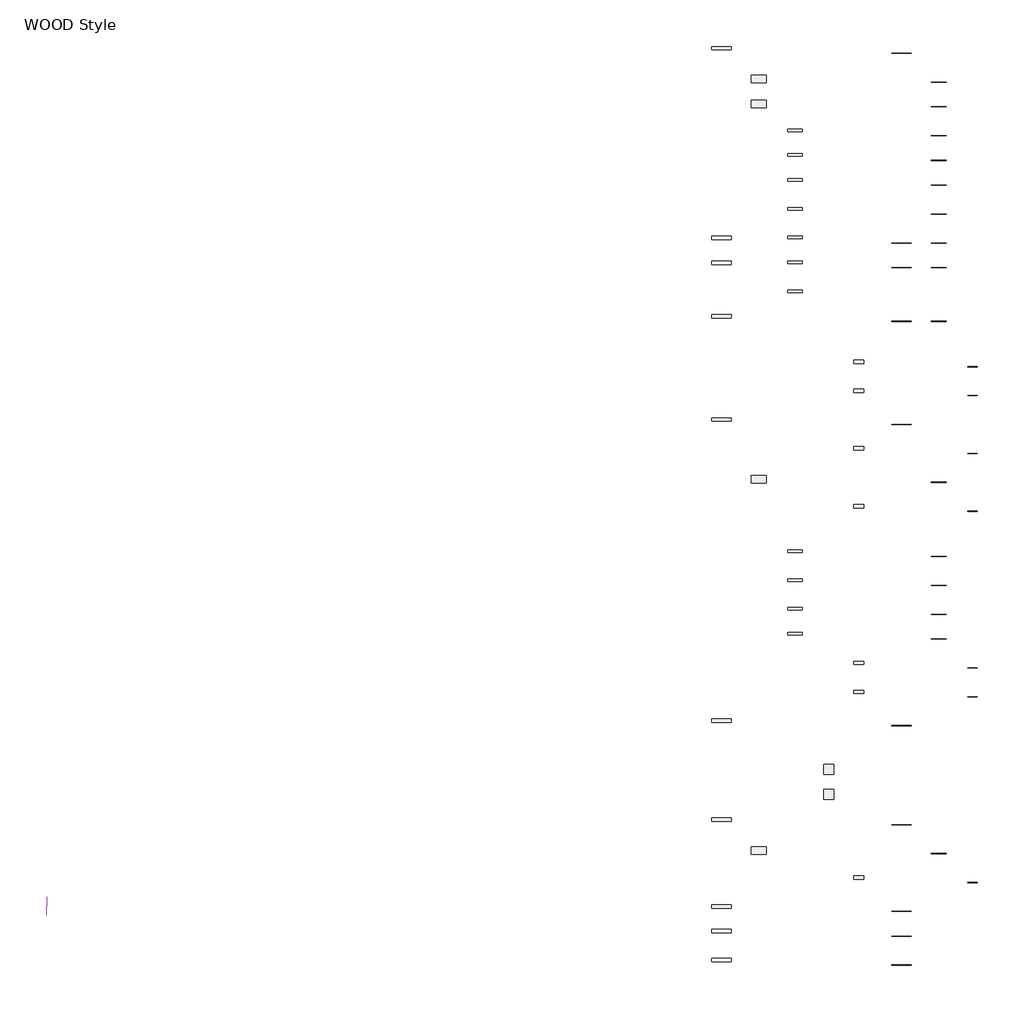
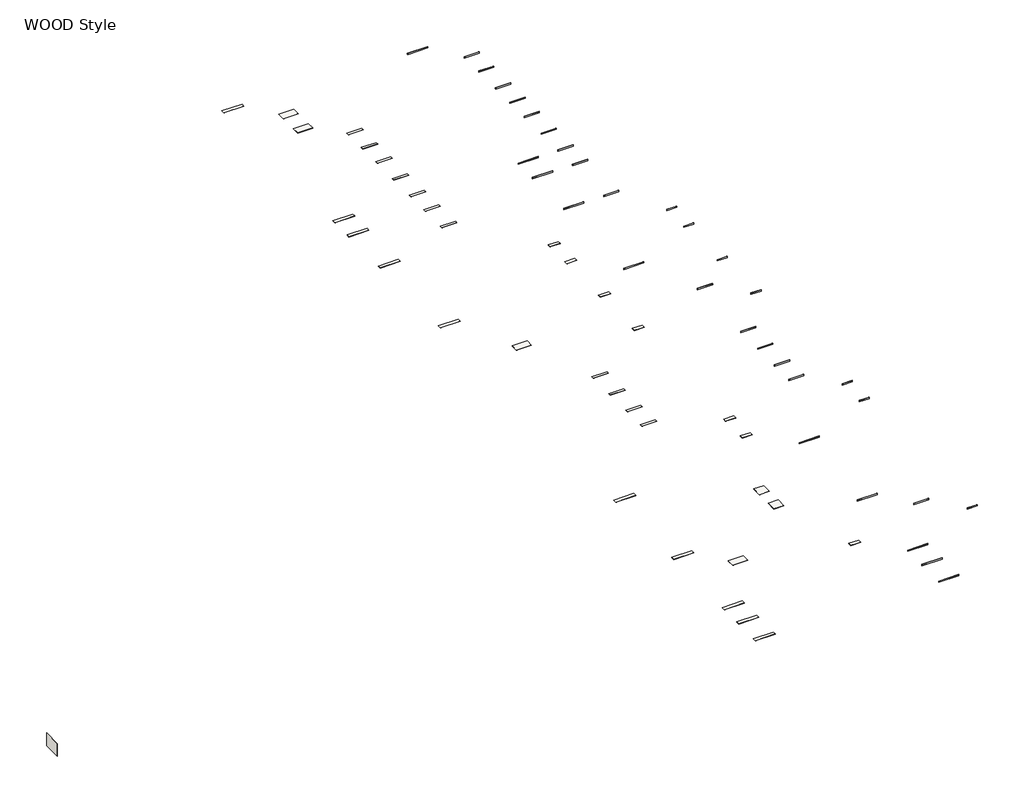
# One storey: 34 slabs, 33 walls, 32 proxies.
"""IFC4 building model written with IfcOpenShell, lengths in millimetres."""

from ifc_helpers import new_model, si_unit, frame, origin, place, context, project, spatial, polyline, outline, extrude, element, save

model = new_model("IFC4")

# Units and contexts
model_context = context("Model", 3, world=origin())
ifc_project = project(units=[si_unit("LENGTHUNIT", "METRE", prefix="MILLI")], contexts=[model_context])

# Site, building, storey
site = spatial("IfcSite", under=ifc_project)
building = spatial("IfcBuilding", under=site)
storey = spatial("IfcBuildingStorey", under=building, Name="WOOD Style", Elevation=3000.0)

# Proxies
placement = place(None, origin())
element("IfcBuildingElementProxy", 1, Name="Cesantoni_Alabama_8x120_RO_Alabama_Mate", ObjectType="Cesantoni_Alabama_8x120_RO_Alabama_Mate", at=placement, inside=storey, context=model_context, shape_type="SweptSolid", body=[
    extrude(outline(polyline([(9669.8218898, 374.781227), (9669.8218898, 385.781227), (10869.8218898, 385.781227), (10869.8218898, 374.781227), (9669.8218898, 374.781227)])), frame((0.0, 0.0, 3000.0), z_axis=(0.0, 0.0, 1.0), x_axis=(1.0, 0.0, 0.0)), (0.0, 0.0, 1.0), 80.0),
])
element("IfcBuildingElementProxy", 2, Name="Cesantoni_Astor_8x90_RO_Miel_Mate", ObjectType="Cesantoni_Astor_8x90_RO_Miel_Mate", at=placement, inside=storey, context=model_context, shape_type="SweptSolid", body=[
    extrude(outline(polyline([(12069.8218898, -1375.218773), (12069.8218898, -1364.218773), (12969.8218898, -1364.218773), (12969.8218898, -1375.218773), (12069.8218898, -1375.218773)])), frame((0.0, 0.0, 3000.0), z_axis=(0.0, 0.0, 1.0), x_axis=(1.0, 0.0, 0.0)), (0.0, 0.0, 1.0), 80.0),
])
element("IfcBuildingElementProxy", 3, Name="Cesantoni_Astor_8x90_RO_Arena_Mate", ObjectType="Cesantoni_Astor_8x90_RO_Arena_Mate", at=placement, inside=storey, context=model_context, shape_type="SweptSolid", body=[
    extrude(outline(polyline([(12069.8218898, -2875.218773), (12069.8218898, -2864.218773), (12969.8218898, -2864.218773), (12969.8218898, -2875.218773), (12069.8218898, -2875.218773)])), frame((0.0, 0.0, 3000.0), z_axis=(0.0, 0.0, 1.0), x_axis=(1.0, 0.0, 0.0)), (0.0, 0.0, 1.0), 80.0),
])
element("IfcBuildingElementProxy", 4, Name="Cesantoni_Balau_8x90_RO_Blanco_Mate", ObjectType="Cesantoni_Balau_8x90_RO_Blanco_Mate", at=placement, inside=storey, context=model_context, shape_type="SweptSolid", body=[
    extrude(outline(polyline([(12069.8218898, -4625.218773), (12069.8218898, -4614.218773), (12969.8218898, -4614.218773), (12969.8218898, -4625.218773), (12069.8218898, -4625.218773)])), frame((0.0, 0.0, 3000.0), z_axis=(0.0, 0.0, 1.0), x_axis=(1.0, 0.0, 0.0)), (0.0, 0.0, 1.0), 80.0),
])
element("IfcBuildingElementProxy", 5, Name="Cesantoni_Balau_8x90_RO_Café_Mate", ObjectType="Cesantoni_Balau_8x90_RO_Café_Mate", at=placement, inside=storey, context=model_context, shape_type="SweptSolid", body=[
    extrude(outline(polyline([(12069.8218898, -6125.218773), (12069.8218898, -6114.218773), (12969.8218898, -6114.218773), (12969.8218898, -6125.218773), (12069.8218898, -6125.218773)])), frame((0.0, 0.0, 3000.0), z_axis=(0.0, 0.0, 1.0), x_axis=(1.0, 0.0, 0.0)), (0.0, 0.0, 1.0), 80.0),
])
element("IfcBuildingElementProxy", 6, Name="Cesantoni_Balau_8x90_RO_Rojo_Mate", ObjectType="Cesantoni_Balau_8x90_RO_Rojo_Mate", at=placement, inside=storey, context=model_context, shape_type="SweptSolid", body=[
    extrude(outline(polyline([(12069.8218898, -7625.218773), (12069.8218898, -7614.218773), (12969.8218898, -7614.218773), (12969.8218898, -7625.218773), (12069.8218898, -7625.218773)])), frame((0.0, 0.0, 3000.0), z_axis=(0.0, 0.0, 1.0), x_axis=(1.0, 0.0, 0.0)), (0.0, 0.0, 1.0), 80.0),
])
element("IfcBuildingElementProxy", 7, Name="Cesantoni_Banff_8x90_RO_Caoba_Mate", ObjectType="Cesantoni_Banff_8x90_RO_Caoba_Mate", at=placement, inside=storey, context=model_context, shape_type="SweptSolid", body=[
    extrude(outline(polyline([(12069.8218898, -9375.218773), (12069.8218898, -9364.218773), (12969.8218898, -9364.218773), (12969.8218898, -9375.218773), (12069.8218898, -9375.218773)])), frame((0.0, 0.0, 3000.0), z_axis=(0.0, 0.0, 1.0), x_axis=(1.0, 0.0, 0.0)), (0.0, 0.0, 1.0), 80.0),
])
element("IfcBuildingElementProxy", 8, Name="Cesantoni_Blendwood_8x90_RO_Fummo_Mate", ObjectType="Cesantoni_Blendwood_8x90_RO_Fummo_Mate", at=placement, inside=storey, context=model_context, shape_type="SweptSolid", body=[
    extrude(outline(polyline([(12069.8218898, -11125.218773), (12069.8218898, -11114.218773), (12969.8218898, -11114.218773), (12969.8218898, -11125.218773), (12069.8218898, -11125.218773)])), frame((0.0, 0.0, 3000.0), z_axis=(0.0, 0.0, 1.0), x_axis=(1.0, 0.0, 0.0)), (0.0, 0.0, 1.0), 80.0),
])
element("IfcBuildingElementProxy", 9, Name="Cesantoni_Blendwood_8x90_RO_Canela_Mate", ObjectType="Cesantoni_Blendwood_8x90_RO_Canela_Mate", at=placement, inside=storey, context=model_context, shape_type="SweptSolid", body=[
    extrude(outline(polyline([(12069.8218898, -12625.218773), (12069.8218898, -12614.218773), (12969.8218898, -12614.218773), (12969.8218898, -12625.218773), (12069.8218898, -12625.218773)])), frame((0.0, 0.0, 3000.0), z_axis=(0.0, 0.0, 1.0), x_axis=(1.0, 0.0, 0.0)), (0.0, 0.0, 1.0), 80.0),
])
element("IfcBuildingElementProxy", 10, Name="Cesantoni_Blendwood_8x120_RO_Fummo_Mate", ObjectType="Cesantoni_Blendwood_8x120_RO_Fummo_Mate", at=placement, inside=storey, context=model_context, shape_type="SweptSolid", body=[
    extrude(outline(polyline([(9669.8218898, -11125.218773), (9669.8218898, -11114.218773), (10869.8218898, -11114.218773), (10869.8218898, -11125.218773), (9669.8218898, -11125.218773)])), frame((0.0, 0.0, 3000.0), z_axis=(0.0, 0.0, 1.0), x_axis=(1.0, 0.0, 0.0)), (0.0, 0.0, 1.0), 80.0),
])
element("IfcBuildingElementProxy", 11, Name="Cesantoni_Blendwood_8x120_RO_Canela_Mate", ObjectType="Cesantoni_Blendwood_8x120_RO_Canela_Mate", at=placement, inside=storey, context=model_context, shape_type="SweptSolid", body=[
    extrude(outline(polyline([(9669.8218898, -12625.218773), (9669.8218898, -12614.218773), (10869.8218898, -12614.218773), (10869.8218898, -12625.218773), (9669.8218898, -12625.218773)])), frame((0.0, 0.0, 3000.0), z_axis=(0.0, 0.0, 1.0), x_axis=(1.0, 0.0, 0.0)), (0.0, 0.0, 1.0), 80.0),
])
element("IfcBuildingElementProxy", 12, Name="Cesantoni_Calajan_8x90_RO_Fummo_Mate", ObjectType="Cesantoni_Calajan_8x90_RO_Fummo_Mate", at=placement, inside=storey, context=model_context, shape_type="SweptSolid", body=[
    extrude(outline(polyline([(12069.8218898, -15875.218773), (12069.8218898, -15864.218773), (12969.8218898, -15864.218773), (12969.8218898, -15875.218773), (12069.8218898, -15875.218773)])), frame((0.0, 0.0, 3000.0), z_axis=(0.0, 0.0, 1.0), x_axis=(1.0, 0.0, 0.0)), (0.0, 0.0, 1.0), 80.0),
])
element("IfcBuildingElementProxy", 13, Name="Cesantoni_Calajan_8x120_RO_Fummo_Mate", ObjectType="Cesantoni_Calajan_8x120_RO_Fummo_Mate", at=placement, inside=storey, context=model_context, shape_type="SweptSolid", body=[
    extrude(outline(polyline([(9669.8218898, -15875.218773), (9669.8218898, -15864.218773), (10869.8218898, -15864.218773), (10869.8218898, -15875.218773), (9669.8218898, -15875.218773)])), frame((0.0, 0.0, 3000.0), z_axis=(0.0, 0.0, 1.0), x_axis=(1.0, 0.0, 0.0)), (0.0, 0.0, 1.0), 80.0),
])
element("IfcBuildingElementProxy", 14, Name="Cesantoni_Cannon_Wood_8x60_RO_Cannon_Wood_Mate", ObjectType="Cesantoni_Cannon_Wood_8x60_RO_Cannon_Wood_Mate", at=placement, inside=storey, context=model_context, shape_type="SweptSolid", body=[
    extrude(outline(polyline([(14269.8218898, -18625.218773), (14269.8218898, -18614.218773), (14869.8218898, -18614.218773), (14869.8218898, -18625.218773), (14269.8218898, -18625.218773)])), frame((0.0, 0.0, 3000.0), z_axis=(0.0, 0.0, 1.0), x_axis=(1.0, 0.0, 0.0)), (0.0, 0.0, 1.0), 80.0),
])
element("IfcBuildingElementProxy", 15, Name="Cesantoni_Decker_8x60_RO_Decker_Mate", ObjectType="Cesantoni_Decker_8x60_RO_Decker_Mate", at=placement, inside=storey, context=model_context, shape_type="SweptSolid", body=[
    extrude(outline(polyline([(14269.8218898, -20375.218773), (14269.8218898, -20364.218773), (14869.8218898, -20364.218773), (14869.8218898, -20375.218773), (14269.8218898, -20375.218773)])), frame((0.0, 0.0, 3000.0), z_axis=(0.0, 0.0, 1.0), x_axis=(1.0, 0.0, 0.0)), (0.0, 0.0, 1.0), 80.0),
])
element("IfcBuildingElementProxy", 16, Name="Cesantoni_Denver_8x120_RO_Denver_Mate", ObjectType="Cesantoni_Denver_8x120_RO_Denver_Mate", at=placement, inside=storey, context=model_context, shape_type="SweptSolid", body=[
    extrude(outline(polyline([(9669.8218898, -22125.218773), (9669.8218898, -22114.218773), (10869.8218898, -22114.218773), (10869.8218898, -22125.218773), (9669.8218898, -22125.218773)])), frame((0.0, 0.0, 3000.0), z_axis=(0.0, 0.0, 1.0), x_axis=(1.0, 0.0, 0.0)), (0.0, 0.0, 1.0), 80.0),
])
element("IfcBuildingElementProxy", 17, Name="Cesantoni_Elkwood_8x60_RO_Elkwood_Mate", ObjectType="Cesantoni_Elkwood_8x60_RO_Elkwood_Mate", at=placement, inside=storey, context=model_context, shape_type="SweptSolid", body=[
    extrude(outline(polyline([(14269.8218898, -23875.218773), (14269.8218898, -23864.218773), (14869.8218898, -23864.218773), (14869.8218898, -23875.218773), (14269.8218898, -23875.218773)])), frame((0.0, 0.0, 3000.0), z_axis=(0.0, 0.0, 1.0), x_axis=(1.0, 0.0, 0.0)), (0.0, 0.0, 1.0), 80.0),
])
element("IfcBuildingElementProxy", 18, Name="Cesantoni_Greensboro_8x90_RO_Greensboro_Mate", ObjectType="Cesantoni_Greensboro_8x90_RO_Greensboro_Mate", at=placement, inside=storey, context=model_context, shape_type="SweptSolid", body=[
    extrude(outline(polyline([(12069.8218898, -25625.218773), (12069.8218898, -25614.218773), (12969.8218898, -25614.218773), (12969.8218898, -25625.218773), (12069.8218898, -25625.218773)])), frame((0.0, 0.0, 3000.0), z_axis=(0.0, 0.0, 1.0), x_axis=(1.0, 0.0, 0.0)), (0.0, 0.0, 1.0), 80.0),
])
element("IfcBuildingElementProxy", 19, Name="Cesantoni_Hanover_8x60_RO_Hanover_Mate", ObjectType="Cesantoni_Hanover_8x60_RO_Hanover_Mate", at=placement, inside=storey, context=model_context, shape_type="SweptSolid", body=[
    extrude(outline(polyline([(14269.8218898, -27375.218773), (14269.8218898, -27364.218773), (14869.8218898, -27364.218773), (14869.8218898, -27375.218773), (14269.8218898, -27375.218773)])), frame((0.0, 0.0, 3000.0), z_axis=(0.0, 0.0, 1.0), x_axis=(1.0, 0.0, 0.0)), (0.0, 0.0, 1.0), 80.0),
])
element("IfcBuildingElementProxy", 20, Name="Cesantoni_Hubbert_8x90_RO_Hubbert_Mate", ObjectType="Cesantoni_Hubbert_8x90_RO_Hubbert_Mate", at=placement, inside=storey, context=model_context, shape_type="SweptSolid", body=[
    extrude(outline(polyline([(12069.8218898, -30125.218773), (12069.8218898, -30114.218773), (12969.8218898, -30114.218773), (12969.8218898, -30125.218773), (12069.8218898, -30125.218773)])), frame((0.0, 0.0, 3000.0), z_axis=(0.0, 0.0, 1.0), x_axis=(1.0, 0.0, 0.0)), (0.0, 0.0, 1.0), 80.0),
])
element("IfcBuildingElementProxy", 21, Name="Cesantoni_Kant_8x90_RO_Moka_Mate", ObjectType="Cesantoni_Kant_8x90_RO_Moka_Mate", at=placement, inside=storey, context=model_context, shape_type="SweptSolid", body=[
    extrude(outline(polyline([(12069.8218898, -31875.218773), (12069.8218898, -31864.218773), (12969.8218898, -31864.218773), (12969.8218898, -31875.218773), (12069.8218898, -31875.218773)])), frame((0.0, 0.0, 3000.0), z_axis=(0.0, 0.0, 1.0), x_axis=(1.0, 0.0, 0.0)), (0.0, 0.0, 1.0), 80.0),
])
element("IfcBuildingElementProxy", 22, Name="Cesantoni_Lubeck_8x90_RO_Castaña_Mate", ObjectType="Cesantoni_Lubeck_8x90_RO_Castaña_Mate", at=placement, inside=storey, context=model_context, shape_type="SweptSolid", body=[
    extrude(outline(polyline([(12069.8218898, -33625.218773), (12069.8218898, -33614.218773), (12969.8218898, -33614.218773), (12969.8218898, -33625.218773), (12069.8218898, -33625.218773)])), frame((0.0, 0.0, 3000.0), z_axis=(0.0, 0.0, 1.0), x_axis=(1.0, 0.0, 0.0)), (0.0, 0.0, 1.0), 80.0),
])
element("IfcBuildingElementProxy", 23, Name="Cesantoni_Memphis_8x60_RO_Memphis_Mate", ObjectType="Cesantoni_Memphis_8x60_RO_Memphis_Mate", at=placement, inside=storey, context=model_context, shape_type="SweptSolid", body=[
    extrude(outline(polyline([(14269.8218898, -36875.218773), (14269.8218898, -36864.218773), (14869.8218898, -36864.218773), (14869.8218898, -36875.218773), (14269.8218898, -36875.218773)])), frame((0.0, 0.0, 3000.0), z_axis=(0.0, 0.0, 1.0), x_axis=(1.0, 0.0, 0.0)), (0.0, 0.0, 1.0), 80.0),
])
element("IfcBuildingElementProxy", 24, Name="Cesantoni_Nebraska_8x60_RO_Nebraska_Mate", ObjectType="Cesantoni_Nebraska_8x60_RO_Nebraska_Mate", at=placement, inside=storey, context=model_context, shape_type="SweptSolid", body=[
    extrude(outline(polyline([(14269.8218898, -38625.218773), (14269.8218898, -38614.218773), (14869.8218898, -38614.218773), (14869.8218898, -38625.218773), (14269.8218898, -38625.218773)])), frame((0.0, 0.0, 3000.0), z_axis=(0.0, 0.0, 1.0), x_axis=(1.0, 0.0, 0.0)), (0.0, 0.0, 1.0), 80.0),
])
element("IfcBuildingElementProxy", 25, Name="Cesantoni_Nekk_8x120_RO_Nekk_Mate", ObjectType="Cesantoni_Nekk_8x120_RO_Nekk_Mate", at=placement, inside=storey, context=model_context, shape_type="SweptSolid", body=[
    extrude(outline(polyline([(9669.8218898, -40375.218773), (9669.8218898, -40364.218773), (10869.8218898, -40364.218773), (10869.8218898, -40375.218773), (9669.8218898, -40375.218773)])), frame((0.0, 0.0, 3000.0), z_axis=(0.0, 0.0, 1.0), x_axis=(1.0, 0.0, 0.0)), (0.0, 0.0, 1.0), 80.0),
])
element("IfcBuildingElementProxy", 26, Name="Cesantoni_Riverwood_8x120_RO_Riverwood_Mate", ObjectType="Cesantoni_Riverwood_8x120_RO_Riverwood_Mate", at=placement, inside=storey, context=model_context, shape_type="SweptSolid", body=[
    extrude(outline(polyline([(9669.8218898, -46375.218773), (9669.8218898, -46364.218773), (10869.8218898, -46364.218773), (10869.8218898, -46375.218773), (9669.8218898, -46375.218773)])), frame((0.0, 0.0, 3000.0), z_axis=(0.0, 0.0, 1.0), x_axis=(1.0, 0.0, 0.0)), (0.0, 0.0, 1.0), 80.0),
])
element("IfcBuildingElementProxy", 27, Name="Cesantoni_Roble_8x90_RO_Roble_Mate", ObjectType="Cesantoni_Roble_8x90_RO_Roble_Mate", at=placement, inside=storey, context=model_context, shape_type="SweptSolid", body=[
    extrude(outline(polyline([(12069.8218898, -48125.218773), (12069.8218898, -48114.218773), (12969.8218898, -48114.218773), (12969.8218898, -48125.218773), (12069.8218898, -48125.218773)])), frame((0.0, 0.0, 3000.0), z_axis=(0.0, 0.0, 1.0), x_axis=(1.0, 0.0, 0.0)), (0.0, 0.0, 1.0), 80.0),
])
element("IfcBuildingElementProxy", 28, Name="Cesantoni_Stockton_8x60_RO_Stockton_Mate", ObjectType="Cesantoni_Stockton_8x60_RO_Stockton_Mate", at=placement, inside=storey, context=model_context, shape_type="SweptSolid", body=[
    extrude(outline(polyline([(14269.8218898, -49875.218773), (14269.8218898, -49864.218773), (14869.8218898, -49864.218773), (14869.8218898, -49875.218773), (14269.8218898, -49875.218773)])), frame((0.0, 0.0, 3000.0), z_axis=(0.0, 0.0, 1.0), x_axis=(1.0, 0.0, 0.0)), (0.0, 0.0, 1.0), 80.0),
])
element("IfcBuildingElementProxy", 29, Name="Cesantoni_Vali_8x120_RO_Fummo_Mate", ObjectType="Cesantoni_Vali_8x120_RO_Fummo_Mate", at=placement, inside=storey, context=model_context, shape_type="SweptSolid", body=[
    extrude(outline(polyline([(9669.8218898, -51625.218773), (9669.8218898, -51614.218773), (10869.8218898, -51614.218773), (10869.8218898, -51625.218773), (9669.8218898, -51625.218773)])), frame((0.0, 0.0, 3000.0), z_axis=(0.0, 0.0, 1.0), x_axis=(1.0, 0.0, 0.0)), (0.0, 0.0, 1.0), 80.0),
])
element("IfcBuildingElementProxy", 30, Name="Cesantoni_Vali_8x120_RO_Moka_Mate", ObjectType="Cesantoni_Vali_8x120_RO_Moka_Mate", at=placement, inside=storey, context=model_context, shape_type="SweptSolid", body=[
    extrude(outline(polyline([(9669.8218898, -53125.218773), (9669.8218898, -53114.218773), (10869.8218898, -53114.218773), (10869.8218898, -53125.218773), (9669.8218898, -53125.218773)])), frame((0.0, 0.0, 3000.0), z_axis=(0.0, 0.0, 1.0), x_axis=(1.0, 0.0, 0.0)), (0.0, 0.0, 1.0), 80.0),
])
element("IfcBuildingElementProxy", 31, Name="Cesantoni_Vermont_8x120_RO_Vermont_Mate", ObjectType="Cesantoni_Vermont_8x120_RO_Vermont_Mate", at=placement, inside=storey, context=model_context, shape_type="SweptSolid", body=[
    extrude(outline(polyline([(9669.8218898, -54875.218773), (9669.8218898, -54864.218773), (10869.8218898, -54864.218773), (10869.8218898, -54875.218773), (9669.8218898, -54875.218773)])), frame((0.0, 0.0, 3000.0), z_axis=(0.0, 0.0, 1.0), x_axis=(1.0, 0.0, 0.0)), (0.0, 0.0, 1.0), 80.0),
])
element("IfcBuildingElementProxy", 32, Name="Cesantoni_Lubeck_8x90_RO_Tabaco_Mate", ObjectType="Cesantoni_Lubeck_8x90_RO_Tabaco_Mate", at=placement, inside=storey, context=model_context, shape_type="SweptSolid", body=[
    extrude(outline(polyline([(12069.8218898, -35125.218773), (12069.8218898, -35114.218773), (12969.8218898, -35114.218773), (12969.8218898, -35125.218773), (12069.8218898, -35125.218773)])), frame((0.0, 0.0, 3000.0), z_axis=(0.0, 0.0, 1.0), x_axis=(1.0, 0.0, 0.0)), (0.0, 0.0, 1.0), 80.0),
])

# Slabs
element("IfcSlab", 33, ObjectType="Cesantoni_Alabama_20x120_RECT_Alabama_Mate", at=placement, inside=storey, context=model_context, shape_type="SweptSolid", body=[
    extrude(outline(polyline([(-28.1781102, 784.4826442), (-28.1781102, 582.4826442), (-1230.1781102, 582.4826442), (-1230.1781102, 784.4826442), (-28.1781102, 784.4826442)])), frame((0.0, 0.0, 2989.0), z_axis=(0.0, 0.0, 1.0), x_axis=(1.0, 0.0, 0.0)), (0.0, 0.0, 1.0), 11.0),
])
element("IfcSlab", 34, ObjectType="Cesantoni_Astor_45x90_RECT_Miel_Mate", at=placement, inside=storey, context=model_context, shape_type="SweptSolid", body=[
    extrude(outline(polyline([(2071.8218898, -965.5173558), (2071.8218898, -1417.5173558), (1169.8218898, -1417.5173558), (1169.8218898, -965.5173558), (2071.8218898, -965.5173558)])), frame((0.0, 0.0, 2989.0), z_axis=(0.0, 0.0, 1.0), x_axis=(1.0, 0.0, 0.0)), (0.0, 0.0, 1.0), 11.0),
])
element("IfcSlab", 35, ObjectType="Cesantoni_Astor_45x90_RECT_Arena_Mate", at=placement, inside=storey, context=model_context, shape_type="SweptSolid", body=[
    extrude(outline(polyline([(2071.8218898, -2465.5173558), (2071.8218898, -2917.5173558), (1169.8218898, -2917.5173558), (1169.8218898, -2465.5173558), (2071.8218898, -2465.5173558)])), frame((0.0, 0.0, 2989.0), z_axis=(0.0, 0.0, 1.0), x_axis=(1.0, 0.0, 0.0)), (0.0, 0.0, 1.0), 11.0),
])
element("IfcSlab", 36, ObjectType="Cesantoni_Balau_15x90_Blanco_Mate", at=placement, inside=storey, context=model_context, shape_type="SweptSolid", body=[
    extrude(outline(polyline([(4271.8218898, -4215.5173558), (4271.8218898, -4367.5173558), (3369.8218898, -4367.5173558), (3369.8218898, -4215.5173558), (4271.8218898, -4215.5173558)])), frame((0.0, 0.0, 2989.0), z_axis=(0.0, 0.0, 1.0), x_axis=(1.0, 0.0, 0.0)), (0.0, 0.0, 1.0), 11.0),
])
element("IfcSlab", 37, ObjectType="Cesantoni_Balau_15x90_Café_Mate", at=placement, inside=storey, context=model_context, shape_type="SweptSolid", body=[
    extrude(outline(polyline([(4271.8218898, -5715.5173558), (4271.8218898, -5867.5173558), (3369.8218898, -5867.5173558), (3369.8218898, -5715.5173558), (4271.8218898, -5715.5173558)])), frame((0.0, 0.0, 2989.0), z_axis=(0.0, 0.0, 1.0), x_axis=(1.0, 0.0, 0.0)), (0.0, 0.0, 1.0), 11.0),
])
element("IfcSlab", 38, ObjectType="Cesantoni_Balau_15x90_Rojo_Mate", at=placement, inside=storey, context=model_context, shape_type="SweptSolid", body=[
    extrude(outline(polyline([(4271.8218898, -7215.5173558), (4271.8218898, -7367.5173558), (3369.8218898, -7367.5173558), (3369.8218898, -7215.5173558), (4271.8218898, -7215.5173558)])), frame((0.0, 0.0, 2989.0), z_axis=(0.0, 0.0, 1.0), x_axis=(1.0, 0.0, 0.0)), (0.0, 0.0, 1.0), 11.0),
])
element("IfcSlab", 39, ObjectType="Cesantoni_Banff_15x90_Caoba_Mate", at=placement, inside=storey, context=model_context, shape_type="SweptSolid", body=[
    extrude(outline(polyline([(4271.8218898, -8965.5173558), (4271.8218898, -9117.5173558), (3369.8218898, -9117.5173558), (3369.8218898, -8965.5173558), (4271.8218898, -8965.5173558)])), frame((0.0, 0.0, 2989.0), z_axis=(0.0, 0.0, 1.0), x_axis=(1.0, 0.0, 0.0)), (0.0, 0.0, 1.0), 11.0),
])
element("IfcSlab", 40, ObjectType="Cesantoni_Blendwood_15x90_Fummo_Mate", at=placement, inside=storey, context=model_context, shape_type="SweptSolid", body=[
    extrude(outline(polyline([(4271.8218898, -10715.5173558), (4271.8218898, -10867.5173558), (3369.8218898, -10867.5173558), (3369.8218898, -10715.5173558), (4271.8218898, -10715.5173558)])), frame((0.0, 0.0, 2989.0), z_axis=(0.0, 0.0, 1.0), x_axis=(1.0, 0.0, 0.0)), (0.0, 0.0, 1.0), 11.0),
])
element("IfcSlab", 41, ObjectType="Cesantoni_Blendwood_15x90_Canela_Mate", at=placement, inside=storey, context=model_context, shape_type="SweptSolid", body=[
    extrude(outline(polyline([(4271.8218898, -12215.5173558), (4271.8218898, -12367.5173558), (3369.8218898, -12367.5173558), (3369.8218898, -12215.5173558), (4271.8218898, -12215.5173558)])), frame((0.0, 0.0, 2989.0), z_axis=(0.0, 0.0, 1.0), x_axis=(1.0, 0.0, 0.0)), (0.0, 0.0, 1.0), 11.0),
])
element("IfcSlab", 42, ObjectType="Cesantoni_Blendwood_20x120_RECT_Fummo_Mate", at=placement, inside=storey, context=model_context, shape_type="SweptSolid", body=[
    extrude(outline(polyline([(-28.1781102, -10715.5173558), (-28.1781102, -10917.5173558), (-1230.1781102, -10917.5173558), (-1230.1781102, -10715.5173558), (-28.1781102, -10715.5173558)])), frame((0.0, 0.0, 2989.0), z_axis=(0.0, 0.0, 1.0), x_axis=(1.0, 0.0, 0.0)), (0.0, 0.0, 1.0), 11.0),
])
element("IfcSlab", 43, ObjectType="Cesantoni_Blendwood_20x120_RECT_Canela_Mate", at=placement, inside=storey, context=model_context, shape_type="SweptSolid", body=[
    extrude(outline(polyline([(-28.1781102, -12215.5173558), (-28.1781102, -12417.5173558), (-1230.1781102, -12417.5173558), (-1230.1781102, -12215.5173558), (-28.1781102, -12215.5173558)])), frame((0.0, 0.0, 2989.0), z_axis=(0.0, 0.0, 1.0), x_axis=(1.0, 0.0, 0.0)), (0.0, 0.0, 1.0), 11.0),
])
element("IfcSlab", 44, ObjectType="Cesantoni_Calajan_15x90_Fummo_Mate", at=placement, inside=storey, context=model_context, shape_type="SweptSolid", body=[
    extrude(outline(polyline([(4271.8218898, -13965.5173558), (4271.8218898, -14117.5173558), (3369.8218898, -14117.5173558), (3369.8218898, -13965.5173558), (4271.8218898, -13965.5173558)])), frame((0.0, 0.0, 2989.0), z_axis=(0.0, 0.0, 1.0), x_axis=(1.0, 0.0, 0.0)), (0.0, 0.0, 1.0), 11.0),
])
element("IfcSlab", 45, ObjectType="Cesantoni_Calajan_20x120_RECT_Fummo_Mate", at=placement, inside=storey, context=model_context, shape_type="SweptSolid", body=[
    extrude(outline(polyline([(-28.1781102, -15465.5173558), (-28.1781102, -15667.5173558), (-1230.1781102, -15667.5173558), (-1230.1781102, -15465.5173558), (-28.1781102, -15465.5173558)])), frame((0.0, 0.0, 2989.0), z_axis=(0.0, 0.0, 1.0), x_axis=(1.0, 0.0, 0.0)), (0.0, 0.0, 1.0), 11.0),
])
element("IfcSlab", 46, ObjectType="Cesantoni_Cannon_Wood_20x60_Cannon_Wood_Mate", at=placement, inside=storey, context=model_context, shape_type="SweptSolid", body=[
    extrude(outline(polyline([(7973.8218898, -18215.5173558), (7973.8218898, -18419.5173558), (7369.8218898, -18419.5173558), (7369.8218898, -18215.5173558), (7973.8218898, -18215.5173558)])), frame((0.0, 0.0, 2990.5), z_axis=(0.0, 0.0, 1.0), x_axis=(1.0, 0.0, 0.0)), (0.0, 0.0, 1.0), 9.5),
])
element("IfcSlab", 47, ObjectType="Cesantoni_Decker_20x60_Decker_Mate", at=placement, inside=storey, context=model_context, shape_type="SweptSolid", body=[
    extrude(outline(polyline([(7973.8218898, -19965.5173558), (7973.8218898, -20169.5173558), (7369.8218898, -20169.5173558), (7369.8218898, -19965.5173558), (7973.8218898, -19965.5173558)])), frame((0.0, 0.0, 2990.5), z_axis=(0.0, 0.0, 1.0), x_axis=(1.0, 0.0, 0.0)), (0.0, 0.0, 1.0), 9.5),
])
element("IfcSlab", 48, ObjectType="Cesantoni_Denver_20x120_RECT_Denver_Mate", at=placement, inside=storey, context=model_context, shape_type="SweptSolid", body=[
    extrude(outline(polyline([(-28.1781102, -21715.5173558), (-28.1781102, -21917.5173558), (-1230.1781102, -21917.5173558), (-1230.1781102, -21715.5173558), (-28.1781102, -21715.5173558)])), frame((0.0, 0.0, 2989.0), z_axis=(0.0, 0.0, 1.0), x_axis=(1.0, 0.0, 0.0)), (0.0, 0.0, 1.0), 11.0),
])
element("IfcSlab", 49, ObjectType="Cesantoni_Elkwood_20x60_Elkwood_Mate", at=placement, inside=storey, context=model_context, shape_type="SweptSolid", body=[
    extrude(outline(polyline([(7973.8218898, -23465.5173558), (7973.8218898, -23669.5173558), (7369.8218898, -23669.5173558), (7369.8218898, -23465.5173558), (7973.8218898, -23465.5173558)])), frame((0.0, 0.0, 2990.5), z_axis=(0.0, 0.0, 1.0), x_axis=(1.0, 0.0, 0.0)), (0.0, 0.0, 1.0), 9.5),
])
element("IfcSlab", 50, ObjectType="Cesantoni_Greensboro_45x90_RECT_Greensboro_Mate", at=placement, inside=storey, context=model_context, shape_type="SweptSolid", body=[
    extrude(outline(polyline([(2071.8218898, -25215.5173558), (2071.8218898, -25667.5173558), (1169.8218898, -25667.5173558), (1169.8218898, -25215.5173558), (2071.8218898, -25215.5173558)])), frame((0.0, 0.0, 2989.0), z_axis=(0.0, 0.0, 1.0), x_axis=(1.0, 0.0, 0.0)), (0.0, 0.0, 1.0), 11.0),
])
element("IfcSlab", 51, ObjectType="Cesantoni_Hanover_20x60_Hanover_Mate", at=placement, inside=storey, context=model_context, shape_type="SweptSolid", body=[
    extrude(outline(polyline([(7973.8218898, -26965.5173558), (7973.8218898, -27169.5173558), (7369.8218898, -27169.5173558), (7369.8218898, -26965.5173558), (7973.8218898, -26965.5173558)])), frame((0.0, 0.0, 2990.5), z_axis=(0.0, 0.0, 1.0), x_axis=(1.0, 0.0, 0.0)), (0.0, 0.0, 1.0), 9.5),
])
element("IfcSlab", 52, ObjectType="Cesantoni_Hubbert_15x90_Hubbert_Mate", at=placement, inside=storey, context=model_context, shape_type="SweptSolid", body=[
    extrude(outline(polyline([(4271.8218898, -29715.5173558), (4271.8218898, -29867.5173558), (3369.8218898, -29867.5173558), (3369.8218898, -29715.5173558), (4271.8218898, -29715.5173558)])), frame((0.0, 0.0, 2989.0), z_axis=(0.0, 0.0, 1.0), x_axis=(1.0, 0.0, 0.0)), (0.0, 0.0, 1.0), 11.0),
])
element("IfcSlab", 53, ObjectType="Cesantoni_Kant_15x90_Moka_Mate", at=placement, inside=storey, context=model_context, shape_type="SweptSolid", body=[
    extrude(outline(polyline([(4271.8218898, -31465.5173558), (4271.8218898, -31617.5173558), (3369.8218898, -31617.5173558), (3369.8218898, -31465.5173558), (4271.8218898, -31465.5173558)])), frame((0.0, 0.0, 2989.0), z_axis=(0.0, 0.0, 1.0), x_axis=(1.0, 0.0, 0.0)), (0.0, 0.0, 1.0), 11.0),
])
element("IfcSlab", 54, ObjectType="Cesantoni_Lubeck_15x90_Castaña_Mate", at=placement, inside=storey, context=model_context, shape_type="SweptSolid", body=[
    extrude(outline(polyline([(4271.8218898, -33215.5173558), (4271.8218898, -33367.5173558), (3369.8218898, -33367.5173558), (3369.8218898, -33215.5173558), (4271.8218898, -33215.5173558)])), frame((0.0, 0.0, 2989.0), z_axis=(0.0, 0.0, 1.0), x_axis=(1.0, 0.0, 0.0)), (0.0, 0.0, 1.0), 11.0),
])
element("IfcSlab", 55, ObjectType="Cesantoni_Lubeck_15x90_Tabaco_Mate", at=placement, inside=storey, context=model_context, shape_type="SweptSolid", body=[
    extrude(outline(polyline([(4271.8218898, -34715.5173558), (4271.8218898, -34867.5173558), (3369.8218898, -34867.5173558), (3369.8218898, -34715.5173558), (4271.8218898, -34715.5173558)])), frame((0.0, 0.0, 2989.0), z_axis=(0.0, 0.0, 1.0), x_axis=(1.0, 0.0, 0.0)), (0.0, 0.0, 1.0), 11.0),
])
element("IfcSlab", 56, ObjectType="Cesantoni_Memphis_20x60_Memphis_Mate", at=placement, inside=storey, context=model_context, shape_type="SweptSolid", body=[
    extrude(outline(polyline([(7973.8218898, -36465.5173558), (7973.8218898, -36669.5173558), (7369.8218898, -36669.5173558), (7369.8218898, -36465.5173558), (7973.8218898, -36465.5173558)])), frame((0.0, 0.0, 2990.5), z_axis=(0.0, 0.0, 1.0), x_axis=(1.0, 0.0, 0.0)), (0.0, 0.0, 1.0), 9.5),
])
element("IfcSlab", 57, ObjectType="Cesantoni_Nebraska_20x60_Nebraska_Mate", at=placement, inside=storey, context=model_context, shape_type="SweptSolid", body=[
    extrude(outline(polyline([(7973.8218898, -38215.5173558), (7973.8218898, -38419.5173558), (7369.8218898, -38419.5173558), (7369.8218898, -38215.5173558), (7973.8218898, -38215.5173558)])), frame((0.0, 0.0, 2990.5), z_axis=(0.0, 0.0, 1.0), x_axis=(1.0, 0.0, 0.0)), (0.0, 0.0, 1.0), 9.5),
])
element("IfcSlab", 58, ObjectType="Cesantoni_Nekk_20x120_RECT_Nekk_Mate", at=placement, inside=storey, context=model_context, shape_type="SweptSolid", body=[
    extrude(outline(polyline([(-28.1781102, -39965.5173558), (-28.1781102, -40167.5173558), (-1230.1781102, -40167.5173558), (-1230.1781102, -39965.5173558), (-28.1781102, -39965.5173558)])), frame((0.0, 0.0, 2989.0), z_axis=(0.0, 0.0, 1.0), x_axis=(1.0, 0.0, 0.0)), (0.0, 0.0, 1.0), 11.0),
])
element("IfcSlab", 59, ObjectType="Cesantoni_Parquet_60x60_RECT_Habano_Mate", at=placement, inside=storey, context=model_context, shape_type="SweptSolid", body=[
    extrude(outline(polyline([(6171.8218898, -42715.5173558), (6171.8218898, -43317.5173558), (5569.8218898, -43317.5173558), (5569.8218898, -42715.5173558), (6171.8218898, -42715.5173558)])), frame((0.0, 0.0, 2989.0), z_axis=(0.0, 0.0, 1.0), x_axis=(1.0, 0.0, 0.0)), (0.0, 0.0, 1.0), 11.0),
])
element("IfcSlab", 60, ObjectType="Cesantoni_Parquet_60x60_RECT_Olmo Gris_Mate", at=placement, inside=storey, context=model_context, shape_type="SweptSolid", body=[
    extrude(outline(polyline([(6171.8218898, -44215.5173558), (6171.8218898, -44817.5173558), (5569.8218898, -44817.5173558), (5569.8218898, -44215.5173558), (6171.8218898, -44215.5173558)])), frame((0.0, 0.0, 2989.0), z_axis=(0.0, 0.0, 1.0), x_axis=(1.0, 0.0, 0.0)), (0.0, 0.0, 1.0), 11.0),
])
element("IfcSlab", 61, ObjectType="Cesantoni_Riverwood_20x120_RECT_Riverwood_Mate", at=placement, inside=storey, context=model_context, shape_type="SweptSolid", body=[
    extrude(outline(polyline([(-28.1781102, -45965.5173558), (-28.1781102, -46167.5173558), (-1230.1781102, -46167.5173558), (-1230.1781102, -45965.5173558), (-28.1781102, -45965.5173558)])), frame((0.0, 0.0, 2989.0), z_axis=(0.0, 0.0, 1.0), x_axis=(1.0, 0.0, 0.0)), (0.0, 0.0, 1.0), 11.0),
])
element("IfcSlab", 62, ObjectType="Cesantoni_Roble_45x90_RECT_Roble_Mate", at=placement, inside=storey, context=model_context, shape_type="SweptSolid", body=[
    extrude(outline(polyline([(2071.8218898, -47715.5173558), (2071.8218898, -48167.5173558), (1169.8218898, -48167.5173558), (1169.8218898, -47715.5173558), (2071.8218898, -47715.5173558)])), frame((0.0, 0.0, 2989.0), z_axis=(0.0, 0.0, 1.0), x_axis=(1.0, 0.0, 0.0)), (0.0, 0.0, 1.0), 11.0),
])
element("IfcSlab", 63, ObjectType="Cesantoni_Stockton_20x60_Stockton_Mate", at=placement, inside=storey, context=model_context, shape_type="SweptSolid", body=[
    extrude(outline(polyline([(7973.8218898, -49465.5173558), (7973.8218898, -49669.5173558), (7369.8218898, -49669.5173558), (7369.8218898, -49465.5173558), (7973.8218898, -49465.5173558)])), frame((0.0, 0.0, 2990.5), z_axis=(0.0, 0.0, 1.0), x_axis=(1.0, 0.0, 0.0)), (0.0, 0.0, 1.0), 9.5),
])
element("IfcSlab", 64, ObjectType="Cesantoni_Vali_20x120_RECT_Fummo_Mate", at=placement, inside=storey, context=model_context, shape_type="SweptSolid", body=[
    extrude(outline(polyline([(-28.1781102, -51215.5173558), (-28.1781102, -51417.5173558), (-1230.1781102, -51417.5173558), (-1230.1781102, -51215.5173558), (-28.1781102, -51215.5173558)])), frame((0.0, 0.0, 2989.0), z_axis=(0.0, 0.0, 1.0), x_axis=(1.0, 0.0, 0.0)), (0.0, 0.0, 1.0), 11.0),
])
element("IfcSlab", 65, ObjectType="Cesantoni_Vali_20x120_RECT_Moka_Mate", at=placement, inside=storey, context=model_context, shape_type="SweptSolid", body=[
    extrude(outline(polyline([(-28.1781102, -52715.5173558), (-28.1781102, -52917.5173558), (-1230.1781102, -52917.5173558), (-1230.1781102, -52715.5173558), (-28.1781102, -52715.5173558)])), frame((0.0, 0.0, 2989.0), z_axis=(0.0, 0.0, 1.0), x_axis=(1.0, 0.0, 0.0)), (0.0, 0.0, 1.0), 11.0),
])
element("IfcSlab", 66, ObjectType="Cesantoni_Vermont_20x120_RECT_Vermont_Mate", at=placement, inside=storey, context=model_context, shape_type="SweptSolid", body=[
    extrude(outline(polyline([(-28.1781102, -54465.5173558), (-28.1781102, -54667.5173558), (-1230.1781102, -54667.5173558), (-1230.1781102, -54465.5173558), (-28.1781102, -54465.5173558)])), frame((0.0, 0.0, 2989.0), z_axis=(0.0, 0.0, 1.0), x_axis=(1.0, 0.0, 0.0)), (0.0, 0.0, 1.0), 11.0),
])

# Walls
element("IfcWall", 67, ObjectType="Muro básico:muro", at=placement, inside=storey, context=model_context, shape_type="SweptSolid", body=[
    extrude(outline(polyline([(10869.8218898, 385.781227), (9669.8218898, 385.781227), (9669.8218898, 386.781227), (10869.8218898, 386.781227), (10869.8218898, 385.781227)])), frame((0.0, 0.0, 3000.0), z_axis=(0.0, 0.0, 1.0), x_axis=(1.0, 0.0, 0.0)), (0.0, 0.0, 1.0), 40.0),
])
element("IfcWall", 68, ObjectType="Muro básico:muro", at=placement, inside=storey, context=model_context, shape_type="SweptSolid", body=[
    extrude(outline(polyline([(12969.8218898, -1364.218773), (12069.8218898, -1364.218773), (12069.8218898, -1363.218773), (12969.8218898, -1363.218773), (12969.8218898, -1364.218773)])), frame((0.0, 0.0, 3000.0), z_axis=(0.0, 0.0, 1.0), x_axis=(1.0, 0.0, 0.0)), (0.0, 0.0, 1.0), 40.0),
])
element("IfcWall", 69, ObjectType="Muro básico:muro", at=placement, inside=storey, context=model_context, shape_type="SweptSolid", body=[
    extrude(outline(polyline([(12969.8218898, -2864.218773), (12069.8218898, -2864.218773), (12069.8218898, -2863.218773), (12969.8218898, -2863.218773), (12969.8218898, -2864.218773)])), frame((0.0, 0.0, 3000.0), z_axis=(0.0, 0.0, 1.0), x_axis=(1.0, 0.0, 0.0)), (0.0, 0.0, 1.0), 40.0),
])
element("IfcWall", 70, ObjectType="Muro básico:muro", at=placement, inside=storey, context=model_context, shape_type="SweptSolid", body=[
    extrude(outline(polyline([(12969.8218898, -4614.218773), (12069.8218898, -4614.218773), (12069.8218898, -4613.218773), (12969.8218898, -4613.218773), (12969.8218898, -4614.218773)])), frame((0.0, 0.0, 3000.0), z_axis=(0.0, 0.0, 1.0), x_axis=(1.0, 0.0, 0.0)), (0.0, 0.0, 1.0), 40.0),
])
element("IfcWall", 71, ObjectType="Muro básico:muro", at=placement, inside=storey, context=model_context, shape_type="SweptSolid", body=[
    extrude(outline(polyline([(12969.8218898, -6114.218773), (12069.8218898, -6114.218773), (12069.8218898, -6113.218773), (12969.8218898, -6113.218773), (12969.8218898, -6114.218773)])), frame((0.0, 0.0, 3000.0), z_axis=(0.0, 0.0, 1.0), x_axis=(1.0, 0.0, 0.0)), (0.0, 0.0, 1.0), 40.0),
])
element("IfcWall", 72, ObjectType="Muro básico:muro", at=placement, inside=storey, context=model_context, shape_type="SweptSolid", body=[
    extrude(outline(polyline([(12969.8218898, -7614.218773), (12069.8218898, -7614.218773), (12069.8218898, -7613.218773), (12969.8218898, -7613.218773), (12969.8218898, -7614.218773)])), frame((0.0, 0.0, 3000.0), z_axis=(0.0, 0.0, 1.0), x_axis=(1.0, 0.0, 0.0)), (0.0, 0.0, 1.0), 40.0),
])
element("IfcWall", 73, ObjectType="Muro básico:muro", at=placement, inside=storey, context=model_context, shape_type="SweptSolid", body=[
    extrude(outline(polyline([(12969.8218898, -9364.218773), (12069.8218898, -9364.218773), (12069.8218898, -9363.218773), (12969.8218898, -9363.218773), (12969.8218898, -9364.218773)])), frame((0.0, 0.0, 3000.0), z_axis=(0.0, 0.0, 1.0), x_axis=(1.0, 0.0, 0.0)), (0.0, 0.0, 1.0), 40.0),
])
element("IfcWall", 74, ObjectType="Muro básico:muro", at=placement, inside=storey, context=model_context, shape_type="SweptSolid", body=[
    extrude(outline(polyline([(12969.8218898, -11114.218773), (12069.8218898, -11114.218773), (12069.8218898, -11113.218773), (12969.8218898, -11113.218773), (12969.8218898, -11114.218773)])), frame((0.0, 0.0, 3000.0), z_axis=(0.0, 0.0, 1.0), x_axis=(1.0, 0.0, 0.0)), (0.0, 0.0, 1.0), 40.0),
])
element("IfcWall", 75, ObjectType="Muro básico:muro", at=placement, inside=storey, context=model_context, shape_type="SweptSolid", body=[
    extrude(outline(polyline([(12969.8218898, -12614.218773), (12069.8218898, -12614.218773), (12069.8218898, -12613.218773), (12969.8218898, -12613.218773), (12969.8218898, -12614.218773)])), frame((0.0, 0.0, 3000.0), z_axis=(0.0, 0.0, 1.0), x_axis=(1.0, 0.0, 0.0)), (0.0, 0.0, 1.0), 40.0),
])
element("IfcWall", 76, ObjectType="Muro básico:muro", at=placement, inside=storey, context=model_context, shape_type="SweptSolid", body=[
    extrude(outline(polyline([(10869.8218898, -11114.218773), (9669.8218898, -11114.218773), (9669.8218898, -11113.218773), (10869.8218898, -11113.218773), (10869.8218898, -11114.218773)])), frame((0.0, 0.0, 3000.0), z_axis=(0.0, 0.0, 1.0), x_axis=(1.0, 0.0, 0.0)), (0.0, 0.0, 1.0), 40.0),
])
element("IfcWall", 77, ObjectType="Muro básico:muro", at=placement, inside=storey, context=model_context, shape_type="SweptSolid", body=[
    extrude(outline(polyline([(10869.8218898, -12614.218773), (9669.8218898, -12614.218773), (9669.8218898, -12613.218773), (10869.8218898, -12613.218773), (10869.8218898, -12614.218773)])), frame((0.0, 0.0, 3000.0), z_axis=(0.0, 0.0, 1.0), x_axis=(1.0, 0.0, 0.0)), (0.0, 0.0, 1.0), 40.0),
])
element("IfcWall", 78, ObjectType="Muro básico:muro", at=placement, inside=storey, context=model_context, shape_type="SweptSolid", body=[
    extrude(outline(polyline([(12969.8218898, -15864.218773), (12069.8218898, -15864.218773), (12069.8218898, -15863.218773), (12969.8218898, -15863.218773), (12969.8218898, -15864.218773)])), frame((0.0, 0.0, 3000.0), z_axis=(0.0, 0.0, 1.0), x_axis=(1.0, 0.0, 0.0)), (0.0, 0.0, 1.0), 40.0),
])
element("IfcWall", 79, ObjectType="Muro básico:muro", at=placement, inside=storey, context=model_context, shape_type="SweptSolid", body=[
    extrude(outline(polyline([(10869.8218898, -15864.218773), (9669.8218898, -15864.218773), (9669.8218898, -15863.218773), (10869.8218898, -15863.218773), (10869.8218898, -15864.218773)])), frame((0.0, 0.0, 3000.0), z_axis=(0.0, 0.0, 1.0), x_axis=(1.0, 0.0, 0.0)), (0.0, 0.0, 1.0), 40.0),
])
element("IfcWall", 80, ObjectType="Muro básico:muro", at=placement, inside=storey, context=model_context, shape_type="SweptSolid", body=[
    extrude(outline(polyline([(14869.8218898, -18614.218773), (14269.8218898, -18614.218773), (14269.8218898, -18613.218773), (14869.8218898, -18613.218773), (14869.8218898, -18614.218773)])), frame((0.0, 0.0, 3000.0), z_axis=(0.0, 0.0, 1.0), x_axis=(1.0, 0.0, 0.0)), (0.0, 0.0, 1.0), 40.0),
])
element("IfcWall", 81, ObjectType="Muro básico:muro", at=placement, inside=storey, context=model_context, shape_type="SweptSolid", body=[
    extrude(outline(polyline([(14869.8218898, -20364.218773), (14269.8218898, -20364.218773), (14269.8218898, -20363.218773), (14869.8218898, -20363.218773), (14869.8218898, -20364.218773)])), frame((0.0, 0.0, 3000.0), z_axis=(0.0, 0.0, 1.0), x_axis=(1.0, 0.0, 0.0)), (0.0, 0.0, 1.0), 40.0),
])
element("IfcWall", 82, ObjectType="Muro básico:muro", at=placement, inside=storey, context=model_context, shape_type="SweptSolid", body=[
    extrude(outline(polyline([(10869.8218898, -22114.218773), (9669.8218898, -22114.218773), (9669.8218898, -22113.218773), (10869.8218898, -22113.218773), (10869.8218898, -22114.218773)])), frame((0.0, 0.0, 3000.0), z_axis=(0.0, 0.0, 1.0), x_axis=(1.0, 0.0, 0.0)), (0.0, 0.0, 1.0), 40.0),
])
element("IfcWall", 83, ObjectType="Muro básico:muro", at=placement, inside=storey, context=model_context, shape_type="SweptSolid", body=[
    extrude(outline(polyline([(14869.8218898, -23864.218773), (14269.8218898, -23864.218773), (14269.8218898, -23863.218773), (14869.8218898, -23863.218773), (14869.8218898, -23864.218773)])), frame((0.0, 0.0, 3000.0), z_axis=(0.0, 0.0, 1.0), x_axis=(1.0, 0.0, 0.0)), (0.0, 0.0, 1.0), 40.0),
])
element("IfcWall", 84, ObjectType="Muro básico:muro", at=placement, inside=storey, context=model_context, shape_type="SweptSolid", body=[
    extrude(outline(polyline([(12969.8218898, -25614.218773), (12069.8218898, -25614.218773), (12069.8218898, -25613.218773), (12969.8218898, -25613.218773), (12969.8218898, -25614.218773)])), frame((0.0, 0.0, 3000.0), z_axis=(0.0, 0.0, 1.0), x_axis=(1.0, 0.0, 0.0)), (0.0, 0.0, 1.0), 40.0),
])
element("IfcWall", 85, ObjectType="Muro básico:muro", at=placement, inside=storey, context=model_context, shape_type="SweptSolid", body=[
    extrude(outline(polyline([(14869.8218898, -27364.218773), (14269.8218898, -27364.218773), (14269.8218898, -27363.218773), (14869.8218898, -27363.218773), (14869.8218898, -27364.218773)])), frame((0.0, 0.0, 3000.0), z_axis=(0.0, 0.0, 1.0), x_axis=(1.0, 0.0, 0.0)), (0.0, 0.0, 1.0), 40.0),
])
element("IfcWall", 86, ObjectType="Muro básico:muro", at=placement, inside=storey, context=model_context, shape_type="SweptSolid", body=[
    extrude(outline(polyline([(12969.8218898, -30114.218773), (12069.8218898, -30114.218773), (12069.8218898, -30113.218773), (12969.8218898, -30113.218773), (12969.8218898, -30114.218773)])), frame((0.0, 0.0, 3000.0), z_axis=(0.0, 0.0, 1.0), x_axis=(1.0, 0.0, 0.0)), (0.0, 0.0, 1.0), 40.0),
])
element("IfcWall", 87, ObjectType="Muro básico:muro", at=placement, inside=storey, context=model_context, shape_type="SweptSolid", body=[
    extrude(outline(polyline([(12969.8218898, -31864.218773), (12069.8218898, -31864.218773), (12069.8218898, -31863.218773), (12969.8218898, -31863.218773), (12969.8218898, -31864.218773)])), frame((0.0, 0.0, 3000.0), z_axis=(0.0, 0.0, 1.0), x_axis=(1.0, 0.0, 0.0)), (0.0, 0.0, 1.0), 40.0),
])
element("IfcWall", 88, ObjectType="Muro básico:muro", at=placement, inside=storey, context=model_context, shape_type="SweptSolid", body=[
    extrude(outline(polyline([(12969.8218898, -33614.218773), (12069.8218898, -33614.218773), (12069.8218898, -33613.218773), (12969.8218898, -33613.218773), (12969.8218898, -33614.218773)])), frame((0.0, 0.0, 3000.0), z_axis=(0.0, 0.0, 1.0), x_axis=(1.0, 0.0, 0.0)), (0.0, 0.0, 1.0), 40.0),
])
element("IfcWall", 89, ObjectType="Muro básico:muro", at=placement, inside=storey, context=model_context, shape_type="SweptSolid", body=[
    extrude(outline(polyline([(14869.8218898, -36864.218773), (14269.8218898, -36864.218773), (14269.8218898, -36863.218773), (14869.8218898, -36863.218773), (14869.8218898, -36864.218773)])), frame((0.0, 0.0, 3000.0), z_axis=(0.0, 0.0, 1.0), x_axis=(1.0, 0.0, 0.0)), (0.0, 0.0, 1.0), 40.0),
])
element("IfcWall", 90, ObjectType="Muro básico:muro", at=placement, inside=storey, context=model_context, shape_type="SweptSolid", body=[
    extrude(outline(polyline([(14869.8218898, -38614.218773), (14269.8218898, -38614.218773), (14269.8218898, -38613.218773), (14869.8218898, -38613.218773), (14869.8218898, -38614.218773)])), frame((0.0, 0.0, 3000.0), z_axis=(0.0, 0.0, 1.0), x_axis=(1.0, 0.0, 0.0)), (0.0, 0.0, 1.0), 40.0),
])
element("IfcWall", 91, ObjectType="Muro básico:muro", at=placement, inside=storey, context=model_context, shape_type="SweptSolid", body=[
    extrude(outline(polyline([(10869.8218898, -40364.218773), (9669.8218898, -40364.218773), (9669.8218898, -40363.218773), (10869.8218898, -40363.218773), (10869.8218898, -40364.218773)])), frame((0.0, 0.0, 3000.0), z_axis=(0.0, 0.0, 1.0), x_axis=(1.0, 0.0, 0.0)), (0.0, 0.0, 1.0), 40.0),
])
element("IfcWall", 92, ObjectType="Muro básico:muro", at=placement, inside=storey, context=model_context, shape_type="SweptSolid", body=[
    extrude(outline(polyline([(10869.8218898, -46364.218773), (9669.8218898, -46364.218773), (9669.8218898, -46363.218773), (10869.8218898, -46363.218773), (10869.8218898, -46364.218773)])), frame((0.0, 0.0, 3000.0), z_axis=(0.0, 0.0, 1.0), x_axis=(1.0, 0.0, 0.0)), (0.0, 0.0, 1.0), 40.0),
])
element("IfcWall", 93, ObjectType="Muro básico:muro", at=placement, inside=storey, context=model_context, shape_type="SweptSolid", body=[
    extrude(outline(polyline([(12969.8218898, -48114.218773), (12069.8218898, -48114.218773), (12069.8218898, -48113.218773), (12969.8218898, -48113.218773), (12969.8218898, -48114.218773)])), frame((0.0, 0.0, 3000.0), z_axis=(0.0, 0.0, 1.0), x_axis=(1.0, 0.0, 0.0)), (0.0, 0.0, 1.0), 40.0),
])
element("IfcWall", 94, ObjectType="Muro básico:muro", at=placement, inside=storey, context=model_context, shape_type="SweptSolid", body=[
    extrude(outline(polyline([(14869.8218898, -49864.218773), (14269.8218898, -49864.218773), (14269.8218898, -49863.218773), (14869.8218898, -49863.218773), (14869.8218898, -49864.218773)])), frame((0.0, 0.0, 3000.0), z_axis=(0.0, 0.0, 1.0), x_axis=(1.0, 0.0, 0.0)), (0.0, 0.0, 1.0), 40.0),
])
element("IfcWall", 95, ObjectType="Muro básico:muro", at=placement, inside=storey, context=model_context, shape_type="SweptSolid", body=[
    extrude(outline(polyline([(10869.8218898, -51614.218773), (9669.8218898, -51614.218773), (9669.8218898, -51613.218773), (10869.8218898, -51613.218773), (10869.8218898, -51614.218773)])), frame((0.0, 0.0, 3000.0), z_axis=(0.0, 0.0, 1.0), x_axis=(1.0, 0.0, 0.0)), (0.0, 0.0, 1.0), 40.0),
])
element("IfcWall", 96, ObjectType="Muro básico:muro", at=placement, inside=storey, context=model_context, shape_type="SweptSolid", body=[
    extrude(outline(polyline([(10869.8218898, -53114.218773), (9669.8218898, -53114.218773), (9669.8218898, -53113.218773), (10869.8218898, -53113.218773), (10869.8218898, -53114.218773)])), frame((0.0, 0.0, 3000.0), z_axis=(0.0, 0.0, 1.0), x_axis=(1.0, 0.0, 0.0)), (0.0, 0.0, 1.0), 40.0),
])
element("IfcWall", 97, ObjectType="Muro básico:muro", at=placement, inside=storey, context=model_context, shape_type="SweptSolid", body=[
    extrude(outline(polyline([(10869.8218898, -54864.218773), (9669.8218898, -54864.218773), (9669.8218898, -54863.218773), (10869.8218898, -54863.218773), (10869.8218898, -54864.218773)])), frame((0.0, 0.0, 3000.0), z_axis=(0.0, 0.0, 1.0), x_axis=(1.0, 0.0, 0.0)), (0.0, 0.0, 1.0), 40.0),
])
element("IfcWall", 98, ObjectType="Muro básico:muro", at=placement, inside=storey, context=model_context, shape_type="SweptSolid", body=[
    extrude(outline(polyline([(12969.8218898, -35114.218773), (12069.8218898, -35114.218773), (12069.8218898, -35113.218773), (12969.8218898, -35113.218773), (12969.8218898, -35114.218773)])), frame((0.0, 0.0, 3000.0), z_axis=(0.0, 0.0, 1.0), x_axis=(1.0, 0.0, 0.0)), (0.0, 0.0, 1.0), 40.0),
])
element("IfcWall", 99, ObjectType="Cesantoni_Charlot_28.3x7.2_Velvet Mate_Mate", at=placement, inside=storey, context=model_context, shape_type="SweptSolid", body=[
    extrude(outline(polyline([(-41497.3407204, -50736.7282789), (-41497.3407204, -51856.7282789), (-41507.3407204, -51856.7282789), (-41507.3407204, -50736.7282789), (-41497.3407204, -50736.7282789)])), frame((0.0, 0.0, 8045.1233813), z_axis=(0.0, 0.0, 1.0), x_axis=(1.0, 0.0, 0.0)), (0.0, 0.0, 1.0), 814.0),
])

save(model, "model.ifc")
